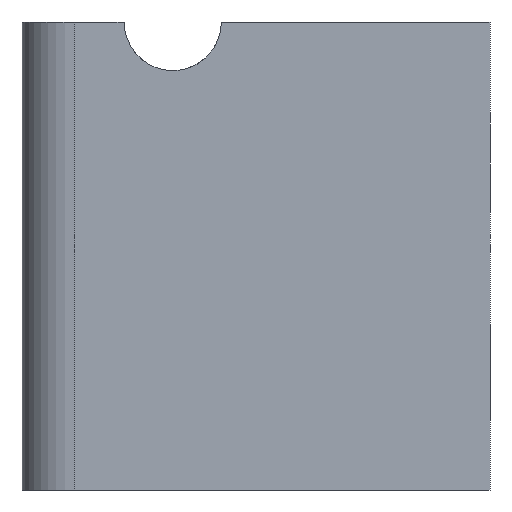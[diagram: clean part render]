
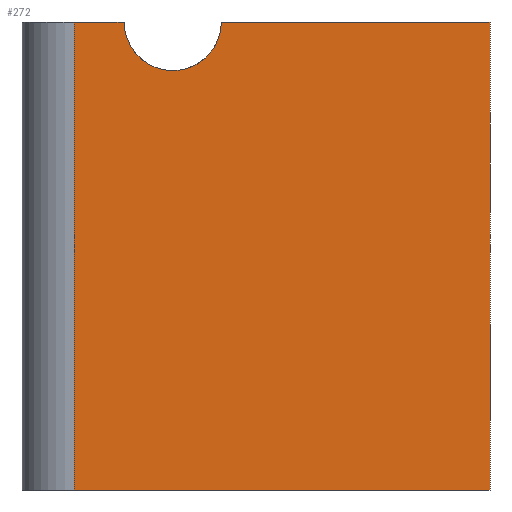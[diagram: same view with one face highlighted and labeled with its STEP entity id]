
A CAD part, front view. The second image highlights one B-rep face of the part: STEP entity #272.
In plain terms, the highlighted planar face has unit normal (0, -1, 0).
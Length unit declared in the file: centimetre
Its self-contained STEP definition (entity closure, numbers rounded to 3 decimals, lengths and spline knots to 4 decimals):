
#15 = AXIS2_PLACEMENT_3D ( 'NONE', #825, #405, #902 ) ;
#26 = ORIENTED_EDGE ( 'NONE', *, *, #853, .T. ) ;
#55 = PLANE ( 'NONE',  #857 ) ;
#58 = DIRECTION ( 'NONE',  ( 1., 0., 0. ) ) ;
#74 = EDGE_LOOP ( 'NONE', ( #691, #788, #652, #26, #923, #797 ) ) ;
#75 = VECTOR ( 'NONE', #603, 100. ) ;
#107 = CARTESIAN_POINT ( 'NONE',  ( 218.1914, 0., 1000. ) ) ;
#116 = VERTEX_POINT ( 'NONE', #473 ) ;
#139 = VERTEX_POINT ( 'NONE', #107 ) ;
#149 = CARTESIAN_POINT ( 'NONE',  ( 1000., 0., 1000. ) ) ;
#162 = CIRCLE ( 'NONE', #15, 103.8714 ) ;
#230 = VECTOR ( 'NONE', #543, 100. ) ;
#237 = CARTESIAN_POINT ( 'NONE',  ( 111.5305, 0., 1000. ) ) ;
#241 = LINE ( 'NONE', #237, #75 ) ;
#242 = LINE ( 'NONE', #527, #624 ) ;
#251 = LINE ( 'NONE', #905, #230 ) ;
#253 = CARTESIAN_POINT ( 'NONE',  ( 0., 0., 0. ) ) ;
#272 = ADVANCED_FACE ( 'NONE', ( #565 ), #55, .F. ) ;
#275 = DIRECTION ( 'NONE',  ( 0., 0., 1. ) ) ;
#304 = VECTOR ( 'NONE', #472, 100. ) ;
#311 = LINE ( 'NONE', #253, #304 ) ;
#312 = CARTESIAN_POINT ( 'NONE',  ( 111.5305, 0., 1000. ) ) ;
#327 = EDGE_CURVE ( 'NONE', #116, #560, #777, .T. ) ;
#369 = EDGE_CURVE ( 'NONE', #116, #139, #162, .T. ) ;
#386 = DIRECTION ( 'NONE',  ( 0., 0., -1. ) ) ;
#405 = DIRECTION ( 'NONE',  ( 0., 1., 0. ) ) ;
#410 = VECTOR ( 'NONE', #58, 100. ) ;
#461 = EDGE_CURVE ( 'NONE', #681, #139, #251, .T. ) ;
#472 = DIRECTION ( 'NONE',  ( 1., 0., 0. ) ) ;
#473 = CARTESIAN_POINT ( 'NONE',  ( 425.9342, 0., 1000. ) ) ;
#494 = CARTESIAN_POINT ( 'NONE',  ( 0., 0., 1000. ) ) ;
#527 = CARTESIAN_POINT ( 'NONE',  ( 1000., 0., 1000. ) ) ;
#533 = VERTEX_POINT ( 'NONE', #716 ) ;
#543 = DIRECTION ( 'NONE',  ( 1., 0., 0. ) ) ;
#555 = CARTESIAN_POINT ( 'NONE',  ( 0., 0., 1000. ) ) ;
#560 = VERTEX_POINT ( 'NONE', #149 ) ;
#565 = FACE_OUTER_BOUND ( 'NONE', #74, .T. ) ;
#574 = VERTEX_POINT ( 'NONE', #790 ) ;
#603 = DIRECTION ( 'NONE',  ( 0., 0., -1. ) ) ;
#624 = VECTOR ( 'NONE', #386, 100. ) ;
#652 = ORIENTED_EDGE ( 'NONE', *, *, #461, .F. ) ;
#681 = VERTEX_POINT ( 'NONE', #312 ) ;
#688 = EDGE_CURVE ( 'NONE', #560, #533, #242, .T. ) ;
#691 = ORIENTED_EDGE ( 'NONE', *, *, #327, .F. ) ;
#708 = DIRECTION ( 'NONE',  ( 0., 1., 0. ) ) ;
#716 = CARTESIAN_POINT ( 'NONE',  ( 1000., 0., 0. ) ) ;
#777 = LINE ( 'NONE', #555, #410 ) ;
#788 = ORIENTED_EDGE ( 'NONE', *, *, #369, .T. ) ;
#790 = CARTESIAN_POINT ( 'NONE',  ( 111.5305, 0., 0. ) ) ;
#797 = ORIENTED_EDGE ( 'NONE', *, *, #688, .F. ) ;
#812 = EDGE_CURVE ( 'NONE', #574, #533, #311, .T. ) ;
#825 = CARTESIAN_POINT ( 'NONE',  ( 322.0628, 0., 1000. ) ) ;
#853 = EDGE_CURVE ( 'NONE', #681, #574, #241, .T. ) ;
#857 = AXIS2_PLACEMENT_3D ( 'NONE', #494, #708, #275 ) ;
#902 = DIRECTION ( 'NONE',  ( 0., 0., 1. ) ) ;
#905 = CARTESIAN_POINT ( 'NONE',  ( 0., 0., 1000. ) ) ;
#923 = ORIENTED_EDGE ( 'NONE', *, *, #812, .T. ) ;
